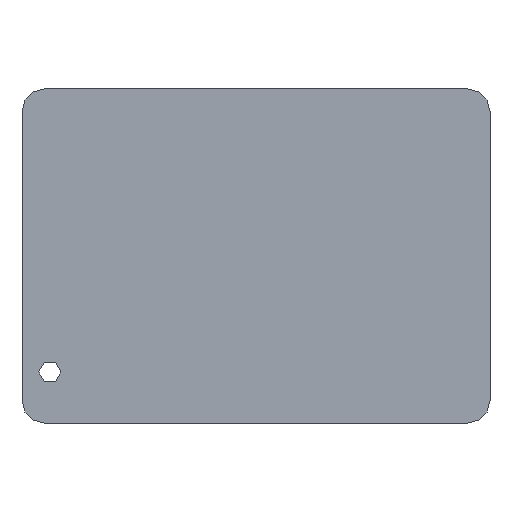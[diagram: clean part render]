
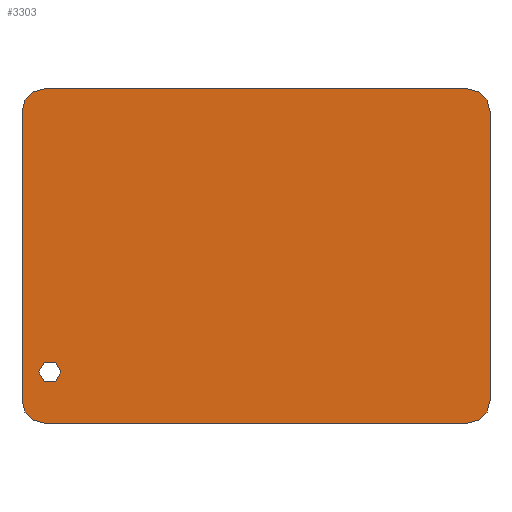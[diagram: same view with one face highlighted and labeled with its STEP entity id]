
A CAD part, front view. The second image highlights one B-rep face of the part: STEP entity #3303.
In plain terms, the highlighted planar face has unit normal (0, -1, 0).
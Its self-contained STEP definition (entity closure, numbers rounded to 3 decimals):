
#2950=FACE_BOUND('',#5643,.T.);
#3303=ADVANCED_FACE('',(#4453,#2950),#23457,.T.);
#4453=FACE_OUTER_BOUND('',#5642,.T.);
#5642=EDGE_LOOP('',(#8149,#8150,#8151,#8152,#8153,#8154,#8155,#8156));
#5643=EDGE_LOOP('',(#8157,#8158));
#8149=ORIENTED_EDGE('',*,*,#13831,.F.);
#8150=ORIENTED_EDGE('',*,*,#13838,.F.);
#8151=ORIENTED_EDGE('',*,*,#13830,.F.);
#8152=ORIENTED_EDGE('',*,*,#13843,.F.);
#8153=ORIENTED_EDGE('',*,*,#13829,.F.);
#8154=ORIENTED_EDGE('',*,*,#13848,.F.);
#8155=ORIENTED_EDGE('',*,*,#13828,.F.);
#8156=ORIENTED_EDGE('',*,*,#13832,.F.);
#8157=ORIENTED_EDGE('',*,*,#13852,.F.);
#8158=ORIENTED_EDGE('',*,*,#13856,.F.);
#13828=EDGE_CURVE('',#21441,#21442,#17166,.T.);
#13829=EDGE_CURVE('',#21443,#21444,#17167,.T.);
#13830=EDGE_CURVE('',#21445,#21446,#17168,.T.);
#13831=EDGE_CURVE('',#21447,#21440,#17169,.T.);
#13832=EDGE_CURVE('',#21440,#21441,#19543,.T.);
#13838=EDGE_CURVE('',#21446,#21447,#19545,.T.);
#13843=EDGE_CURVE('',#21444,#21445,#19547,.T.);
#13848=EDGE_CURVE('',#21442,#21443,#19549,.T.);
#13852=EDGE_CURVE('',#21448,#21449,#19551,.T.);
#13856=EDGE_CURVE('',#21449,#21448,#19553,.T.);
#17166=B_SPLINE_CURVE_WITH_KNOTS('',1,(#47270,#47271),.UNSPECIFIED.,.F.,
 .F.,(2,2),(0.,19.),.UNSPECIFIED.);
#17167=B_SPLINE_CURVE_WITH_KNOTS('',1,(#47272,#47273),.UNSPECIFIED.,.F.,
 .F.,(2,2),(0.,13.),.UNSPECIFIED.);
#17168=B_SPLINE_CURVE_WITH_KNOTS('',1,(#47274,#47275),.UNSPECIFIED.,.F.,
 .F.,(2,2),(0.,19.),.UNSPECIFIED.);
#17169=B_SPLINE_CURVE_WITH_KNOTS('',1,(#47276,#47277),.UNSPECIFIED.,.F.,
 .F.,(2,2),(0.,13.),.UNSPECIFIED.);
#19543=TRIMMED_CURVE($,#20414,(#47279),(#47280),.T.,.CARTESIAN.);
#19545=TRIMMED_CURVE($,#20416,(#47293),(#47294),.T.,.CARTESIAN.);
#19547=TRIMMED_CURVE($,#20418,(#47305),(#47306),.T.,.CARTESIAN.);
#19549=TRIMMED_CURVE($,#20420,(#47317),(#47318),.T.,.CARTESIAN.);
#19551=TRIMMED_CURVE($,#20422,(#47327),(#47328),.T.,.CARTESIAN.);
#19553=TRIMMED_CURVE($,#20424,(#47337),(#47338),.T.,.CARTESIAN.);
#20414=CIRCLE('',#30475,1.);
#20416=CIRCLE('',#30477,1.);
#20418=CIRCLE('',#30479,1.);
#20420=CIRCLE('',#30481,1.);
#20422=CIRCLE('',#30483,0.5);
#20424=CIRCLE('',#30485,0.5);
#21440=VERTEX_POINT('',#47250);
#21441=VERTEX_POINT('',#47251);
#21442=VERTEX_POINT('',#47252);
#21443=VERTEX_POINT('',#47253);
#21444=VERTEX_POINT('',#47254);
#21445=VERTEX_POINT('',#47255);
#21446=VERTEX_POINT('',#47256);
#21447=VERTEX_POINT('',#47257);
#21448=VERTEX_POINT('',#47258);
#21449=VERTEX_POINT('',#47259);
#23457=PLANE('',#30463);
#30463=AXIS2_PLACEMENT_3D('',#47238,#34066,$);
#30475=AXIS2_PLACEMENT_3D($,#47278,#34078,#34079);
#30477=AXIS2_PLACEMENT_3D($,#47292,#34082,#34083);
#30479=AXIS2_PLACEMENT_3D($,#47304,#34086,#34087);
#30481=AXIS2_PLACEMENT_3D($,#47316,#34090,#34091);
#30483=AXIS2_PLACEMENT_3D($,#47326,#34094,#34095);
#30485=AXIS2_PLACEMENT_3D($,#47336,#34098,#34099);
#34066=DIRECTION('',(0.,-1.,0.));
#34078=DIRECTION('',(0.,1.,0.));
#34079=DIRECTION('',(1.,0.,0.));
#34082=DIRECTION('',(0.,1.,0.));
#34083=DIRECTION('',(0.,0.,1.));
#34086=DIRECTION('',(0.,1.,0.));
#34087=DIRECTION('',(-1.,0.,0.));
#34090=DIRECTION('',(0.,1.,0.));
#34091=DIRECTION('',(0.,0.,-1.));
#34094=DIRECTION('',(0.,-1.,0.));
#34095=DIRECTION('',(-1.,0.,0.));
#34098=DIRECTION('',(0.,-1.,0.));
#34099=DIRECTION('',(1.,0.,0.));
#47238=CARTESIAN_POINT('',(-10.72,0.,9.12));
#47250=CARTESIAN_POINT('',(12.5,0.,-6.5));
#47251=CARTESIAN_POINT('',(11.5,0.,-7.5));
#47252=CARTESIAN_POINT('',(-7.5,0.,-7.5));
#47253=CARTESIAN_POINT('',(-8.5,0.,-6.5));
#47254=CARTESIAN_POINT('',(-8.5,0.,6.5));
#47255=CARTESIAN_POINT('',(-7.5,0.,7.5));
#47256=CARTESIAN_POINT('',(11.5,0.,7.5));
#47257=CARTESIAN_POINT('',(12.5,0.,6.5));
#47258=CARTESIAN_POINT('',(-7.75,0.,-5.2));
#47259=CARTESIAN_POINT('',(-6.75,0.,-5.2));
#47270=CARTESIAN_POINT('',(11.5,0.,-7.5));
#47271=CARTESIAN_POINT('',(-7.5,0.,-7.5));
#47272=CARTESIAN_POINT('',(-8.5,0.,-6.5));
#47273=CARTESIAN_POINT('',(-8.5,0.,6.5));
#47274=CARTESIAN_POINT('',(-7.5,0.,7.5));
#47275=CARTESIAN_POINT('',(11.5,0.,7.5));
#47276=CARTESIAN_POINT('',(12.5,0.,6.5));
#47277=CARTESIAN_POINT('',(12.5,0.,-6.5));
#47278=CARTESIAN_POINT('',(11.5,0.,-6.5));
#47279=CARTESIAN_POINT('',(12.5,0.,-6.5));
#47280=CARTESIAN_POINT('',(11.5,0.,-7.5));
#47292=CARTESIAN_POINT('',(11.5,0.,6.5));
#47293=CARTESIAN_POINT('',(11.5,0.,7.5));
#47294=CARTESIAN_POINT('',(12.5,0.,6.5));
#47304=CARTESIAN_POINT('',(-7.5,0.,6.5));
#47305=CARTESIAN_POINT('',(-8.5,0.,6.5));
#47306=CARTESIAN_POINT('',(-7.5,0.,7.5));
#47316=CARTESIAN_POINT('',(-7.5,0.,-6.5));
#47317=CARTESIAN_POINT('',(-7.5,0.,-7.5));
#47318=CARTESIAN_POINT('',(-8.5,0.,-6.5));
#47326=CARTESIAN_POINT('',(-7.25,0.,-5.2));
#47327=CARTESIAN_POINT('',(-7.75,0.,-5.2));
#47328=CARTESIAN_POINT('',(-6.75,0.,-5.2));
#47336=CARTESIAN_POINT('',(-7.25,0.,-5.2));
#47337=CARTESIAN_POINT('',(-6.75,0.,-5.2));
#47338=CARTESIAN_POINT('',(-7.75,0.,-5.2));
